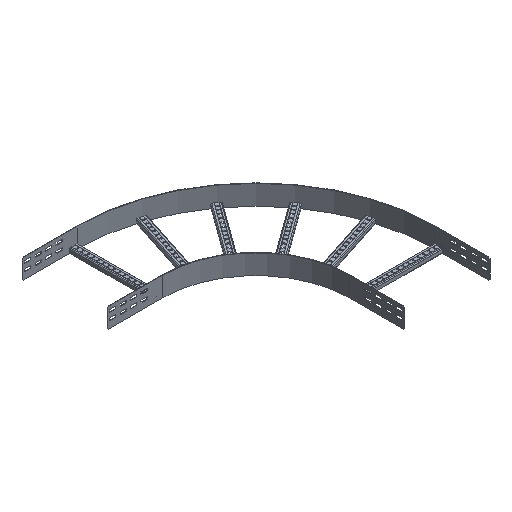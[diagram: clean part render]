
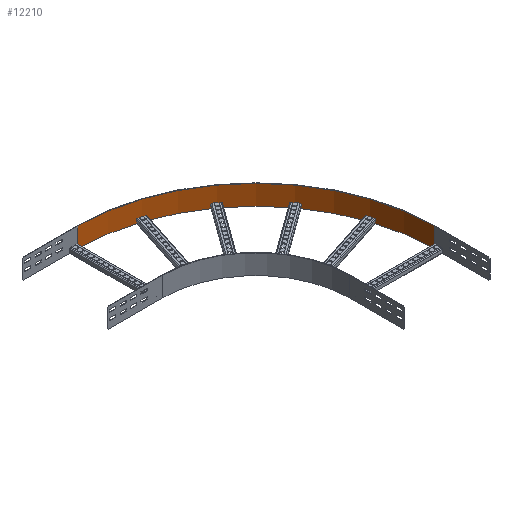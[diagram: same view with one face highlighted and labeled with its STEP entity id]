
A CAD part, isometric view. The second image highlights one B-rep face of the part: STEP entity #12210.
In plain terms, the highlighted cylindrical face has radius 855 mm (diameter 1710 mm), a partial arc.
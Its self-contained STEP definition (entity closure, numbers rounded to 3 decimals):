
#6580=CARTESIAN_POINT('',(0.,401.,-50.));
#6590=VERTEX_POINT('',#6580);
#6620=CARTESIAN_POINT('',(0.,401.,-50.));
#6630=DIRECTION('',(0.,0.,1.));
#6640=VECTOR('',#6630,1.);
#6650=LINE('',#6620,#6640);
#6660=CARTESIAN_POINT('',(0.,401.,-145.));
#6670=VERTEX_POINT('',#6660);
#6680=EDGE_CURVE('',#6670,#6590,#6650,.T.);
#11830=CARTESIAN_POINT('',(855.,-454.,-50.));
#11840=VERTEX_POINT('',#11830);
#11870=CARTESIAN_POINT('',(0.,-454.,-50.));
#11880=DIRECTION('',(0.,0.,1.));
#11890=DIRECTION('',(1.,0.,0.));
#11900=AXIS2_PLACEMENT_3D('',#11870,#11880,#11890);
#11910=CIRCLE('',#11900,855.);
#11920=EDGE_CURVE('',#11840,#6590,#11910,.T.);
#11970=CARTESIAN_POINT('',(0.,-454.,-50.));
#11980=DIRECTION('',(0.,0.,1.));
#11990=DIRECTION('',(1.,0.,0.));
#12000=AXIS2_PLACEMENT_3D('',#11970,#11980,#11990);
#12010=CYLINDRICAL_SURFACE('',#12000,855.);
#12020=CARTESIAN_POINT('',(855.,-454.,-50.));
#12030=DIRECTION('',(0.,0.,1.));
#12040=VECTOR('',#12030,1.);
#12050=LINE('',#12020,#12040);
#12060=CARTESIAN_POINT('',(855.,-454.,-145.));
#12070=VERTEX_POINT('',#12060);
#12080=EDGE_CURVE('',#12070,#11840,#12050,.T.);
#12090=ORIENTED_EDGE('',*,*,#12080,.T.);
#12100=CARTESIAN_POINT('',(0.,-454.,-145.));
#12110=DIRECTION('',(0.,0.,1.));
#12120=DIRECTION('',(1.,0.,0.));
#12130=AXIS2_PLACEMENT_3D('',#12100,#12110,#12120);
#12140=CIRCLE('',#12130,855.);
#12150=EDGE_CURVE('',#12070,#6670,#12140,.T.);
#12160=ORIENTED_EDGE('',*,*,#12150,.F.);
#12170=ORIENTED_EDGE('',*,*,#6680,.F.);
#12180=ORIENTED_EDGE('',*,*,#11920,.T.);
#12190=EDGE_LOOP('',(#12180,#12170,#12160,#12090));
#12200=FACE_OUTER_BOUND('',#12190,.T.);
#12210=ADVANCED_FACE('',(#12200),#12010,.F.);
